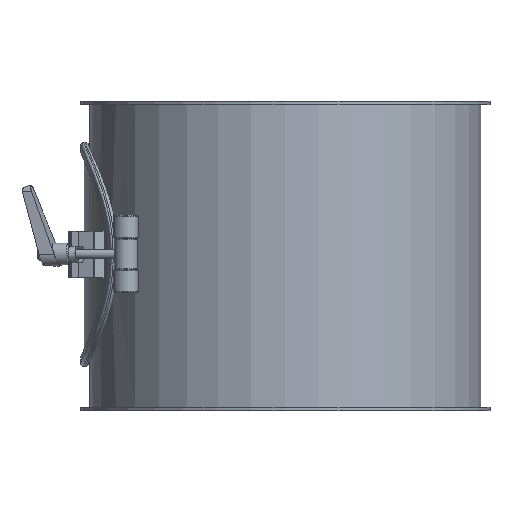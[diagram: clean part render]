
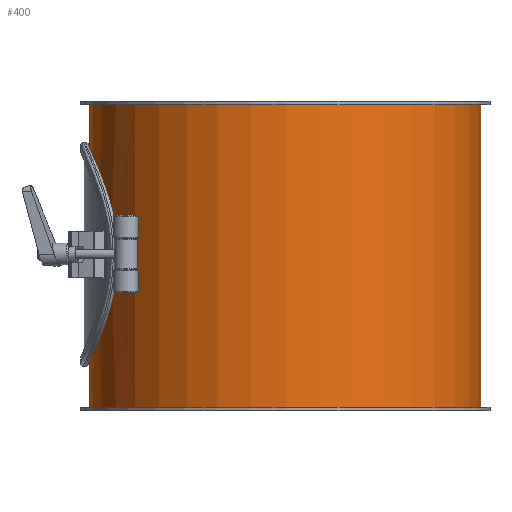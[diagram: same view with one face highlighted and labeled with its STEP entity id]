
A CAD part, front view. The second image highlights one B-rep face of the part: STEP entity #400.
In plain terms, the highlighted cylindrical face has radius 126.5 mm (diameter 253 mm), a full revolution.
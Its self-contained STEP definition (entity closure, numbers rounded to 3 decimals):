
#185=CARTESIAN_POINT('',(-112.677,-57.5,100.0));
#186=VERTEX_POINT('',#185);
#187=CARTESIAN_POINT('',(-112.677,-57.5,100.0));
#188=CARTESIAN_POINT('',(-112.677,-57.5,96.327));
#189=CARTESIAN_POINT('',(-112.861,-57.143,92.55));
#190=CARTESIAN_POINT('',(-113.6,-55.66,85.076));
#191=CARTESIAN_POINT('',(-114.152,-54.536,81.378));
#192=CARTESIAN_POINT('',(-115.515,-51.587,74.316));
#193=CARTESIAN_POINT('',(-116.324,-49.76,70.944));
#194=CARTESIAN_POINT('',(-118.033,-45.559,64.719));
#195=CARTESIAN_POINT('',(-118.931,-43.184,61.867));
#196=CARTESIAN_POINT('',(-120.643,-38.138,56.821));
#197=CARTESIAN_POINT('',(-121.521,-35.287,54.446));
#198=CARTESIAN_POINT('',(-123.159,-29.062,50.243));
#199=CARTESIAN_POINT('',(-123.917,-25.687,48.414));
#200=CARTESIAN_POINT('',(-125.174,-18.617,45.463));
#201=CARTESIAN_POINT('',(-125.674,-14.916,44.338));
#202=CARTESIAN_POINT('',(-126.337,-7.441,42.856));
#203=CARTESIAN_POINT('',(-126.5,-3.666,42.5));
#204=CARTESIAN_POINT('',(-126.5,3.666,42.5));
#205=CARTESIAN_POINT('',(-126.337,7.441,42.856));
#206=CARTESIAN_POINT('',(-125.674,14.916,44.338));
#207=CARTESIAN_POINT('',(-125.174,18.617,45.463));
#208=CARTESIAN_POINT('',(-123.917,25.687,48.414));
#209=CARTESIAN_POINT('',(-123.159,29.062,50.243));
#210=CARTESIAN_POINT('',(-121.521,35.287,54.446));
#211=CARTESIAN_POINT('',(-120.643,38.138,56.821));
#212=CARTESIAN_POINT('',(-118.931,43.184,61.867));
#213=CARTESIAN_POINT('',(-118.033,45.559,64.719));
#214=CARTESIAN_POINT('',(-116.324,49.76,70.944));
#215=CARTESIAN_POINT('',(-115.515,51.587,74.316));
#216=CARTESIAN_POINT('',(-114.152,54.536,81.378));
#217=CARTESIAN_POINT('',(-113.6,55.66,85.076));
#218=CARTESIAN_POINT('',(-112.861,57.143,92.55));
#219=CARTESIAN_POINT('',(-112.677,57.5,96.327));
#220=CARTESIAN_POINT('',(-112.677,57.5,103.673));
#221=CARTESIAN_POINT('',(-112.861,57.143,107.45));
#222=CARTESIAN_POINT('',(-113.6,55.66,114.924));
#223=CARTESIAN_POINT('',(-114.152,54.536,118.622));
#224=CARTESIAN_POINT('',(-115.515,51.587,125.684));
#225=CARTESIAN_POINT('',(-116.324,49.76,129.056));
#226=CARTESIAN_POINT('',(-118.033,45.559,135.281));
#227=CARTESIAN_POINT('',(-118.931,43.184,138.133));
#228=CARTESIAN_POINT('',(-120.643,38.138,143.179));
#229=CARTESIAN_POINT('',(-121.521,35.287,145.554));
#230=CARTESIAN_POINT('',(-123.159,29.062,149.757));
#231=CARTESIAN_POINT('',(-123.917,25.687,151.586));
#232=CARTESIAN_POINT('',(-125.174,18.617,154.537));
#233=CARTESIAN_POINT('',(-125.674,14.916,155.662));
#234=CARTESIAN_POINT('',(-126.337,7.441,157.144));
#235=CARTESIAN_POINT('',(-126.5,3.666,157.5));
#236=CARTESIAN_POINT('',(-126.5,-3.666,157.5));
#237=CARTESIAN_POINT('',(-126.337,-7.441,157.144));
#238=CARTESIAN_POINT('',(-125.674,-14.916,155.662));
#239=CARTESIAN_POINT('',(-125.174,-18.617,154.537));
#240=CARTESIAN_POINT('',(-123.917,-25.687,151.586));
#241=CARTESIAN_POINT('',(-123.159,-29.062,149.757));
#242=CARTESIAN_POINT('',(-121.521,-35.287,145.554));
#243=CARTESIAN_POINT('',(-120.643,-38.138,143.179));
#244=CARTESIAN_POINT('',(-118.931,-43.184,138.133));
#245=CARTESIAN_POINT('',(-118.033,-45.559,135.281));
#246=CARTESIAN_POINT('',(-116.324,-49.76,129.056));
#247=CARTESIAN_POINT('',(-115.515,-51.587,125.684));
#248=CARTESIAN_POINT('',(-114.152,-54.536,118.622));
#249=CARTESIAN_POINT('',(-113.6,-55.66,114.924));
#250=CARTESIAN_POINT('',(-112.861,-57.143,107.45));
#251=CARTESIAN_POINT('',(-112.677,-57.5,103.673));
#252=CARTESIAN_POINT('',(-112.677,-57.5,100.0));
#253=B_SPLINE_CURVE_WITH_KNOTS('',3,(#187,#188,#189,#190,#191,#192,#193,#194,#195,#196,#197,#198,#199,#200,#201,#202,#203,#204,#205,#206,#207,#208,#209,#210,#211,#212,#213,#214,#215,#216,#217,#218,#219,#220,#221,#222,#223,#224,#225,#226,#227,#228,#229,#230,#231,#232,#233,#234,#235,#236,#237,#238,#239,#240,#241,#242,#243,#244,#245,#246,#247,#248,#249,#250,#251,#252),.UNSPECIFIED.,.T.,.U.,(4,2,2,2,2,2,2,2,2,2,2,2,2,2,2,2,2,2,2,2,2,2,2,2,2,2,2,2,2,2,2,2,4),(0.0,1.102,2.204,3.305,4.407,5.507,6.607,7.707,8.806,9.906,11.006,12.106,13.206,14.308,15.409,16.511,17.613,18.715,19.817,20.918,22.02,23.12,24.22,25.32,26.419,27.519,28.619,29.719,30.819,31.921,33.022,34.124,35.226),.UNSPECIFIED.);
#254=EDGE_CURVE('',#186,#186,#253,.T.);
#295=CARTESIAN_POINT('',(126.5,0.,198.0));
#296=VERTEX_POINT('',#295);
#297=CARTESIAN_POINT('',(0.0,0.0,198.0));
#298=DIRECTION('',(0.0,0.0,-1.0));
#299=DIRECTION('',(-1.0,0.0,0.0));
#300=AXIS2_PLACEMENT_3D('',#297,#298,#299);
#301=CIRCLE('',#300,126.5);
#302=EDGE_CURVE('',#296,#296,#301,.T.);
#343=CARTESIAN_POINT('',(-126.5,0.,2.0));
#344=VERTEX_POINT('',#343);
#345=CARTESIAN_POINT('',(0.0,0.0,2.0));
#346=DIRECTION('',(0.0,0.0,1.0));
#347=DIRECTION('',(-1.0,0.0,0.0));
#348=AXIS2_PLACEMENT_3D('',#345,#346,#347);
#349=CIRCLE('',#348,126.5);
#350=EDGE_CURVE('',#344,#344,#349,.T.);
#386=CARTESIAN_POINT('',(0.0,0.0,0.0));
#387=DIRECTION('',(0.0,0.0,1.0));
#388=DIRECTION('',(-1.0,0.0,0.0));
#389=AXIS2_PLACEMENT_3D('',#386,#387,#388);
#390=CYLINDRICAL_SURFACE('',#389,126.5);
#391=ORIENTED_EDGE('',*,*,#302,.T.);
#392=EDGE_LOOP('',(#391));
#393=FACE_OUTER_BOUND('',#392,.T.);
#394=ORIENTED_EDGE('',*,*,#254,.T.);
#395=EDGE_LOOP('',(#394));
#396=FACE_BOUND('',#395,.T.);
#397=ORIENTED_EDGE('',*,*,#350,.T.);
#398=EDGE_LOOP('',(#397));
#399=FACE_BOUND('',#398,.T.);
#400=ADVANCED_FACE('',(#393,#396,#399),#390,.T.);
